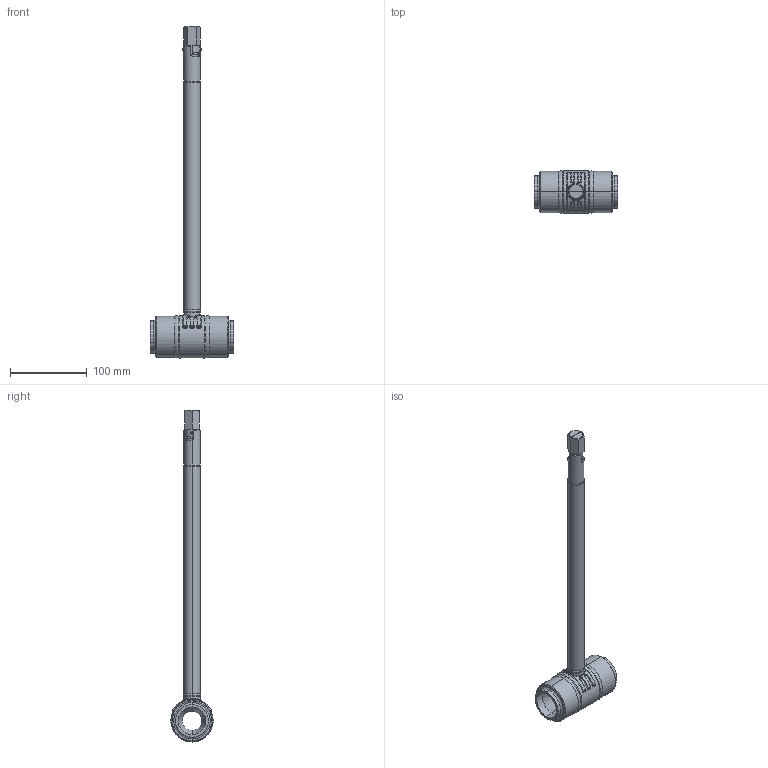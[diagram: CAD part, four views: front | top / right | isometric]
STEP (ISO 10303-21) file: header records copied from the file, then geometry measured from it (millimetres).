
FILE_DESCRIPTION((''),'2;1');
FILE_NAME('KHO-U-32R25-PN40-KURZ','2023-02-22T14:39:42',('jeitlers'),('KLINGER'),'CREO PARAMETRIC BY PTC INC, 2020184','CREO PARAMETRIC BY PTC INC, 2020184','');
FILE_SCHEMA(('AUTOMOTIVE_DESIGN { 1 0 10303 214 1 1 1 1 }'));
Length unit declared in the file: millimetre
Products named in the file (1): KHO-U-32R25-PN40-KURZ
Bounding box: 108 x 55 x 431.5 mm (x, y, z)
Volume: 271114.8 mm3; surface area: 109440.3 mm2
Topology: 2 solids, 2 shells, 478 faces, 1030 edges, 592 vertices
Faces by surface type: cylinder 157, torus 100, plane 83, cone 80, bspline 56, sphere 2
Entity records: 23864 total; most frequent: CARTESIAN_POINT 12555, DIRECTION 2321, ORIENTED_EDGE 2060, EDGE_CURVE 1030, AXIS2_PLACEMENT_3D 1007, VERTEX_POINT 592, CIRCLE 575, EDGE_LOOP 526
